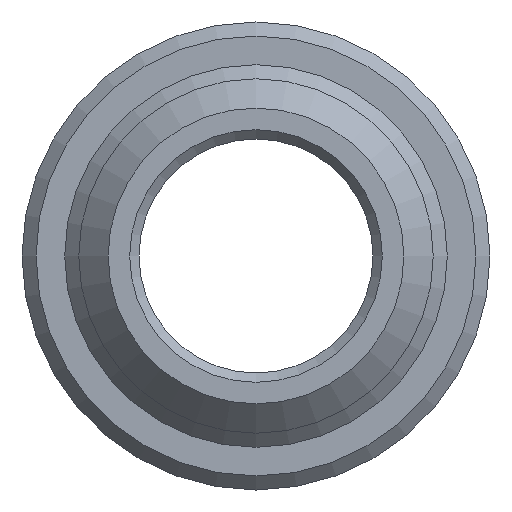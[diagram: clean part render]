
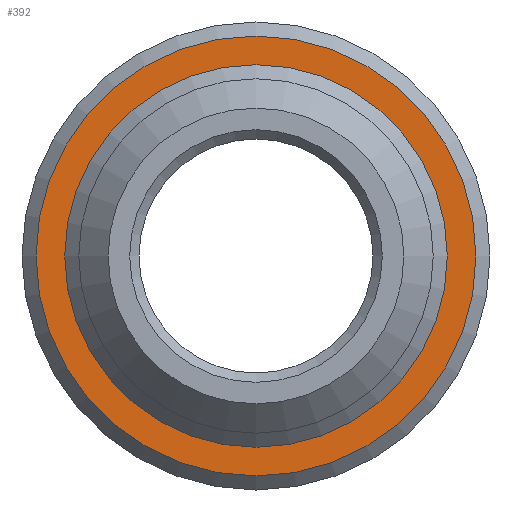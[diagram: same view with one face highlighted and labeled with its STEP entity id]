
A CAD part, front view. The second image highlights one B-rep face of the part: STEP entity #392.
In plain terms, the highlighted planar face has unit normal (0, -1, 0).
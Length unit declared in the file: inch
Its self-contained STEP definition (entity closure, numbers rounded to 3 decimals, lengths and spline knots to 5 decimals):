
#33=FACE_BOUND('',#86,.T.);
#44=PLANE('',#443);
#60=FACE_OUTER_BOUND('',#85,.T.);
#85=EDGE_LOOP('',(#316));
#86=EDGE_LOOP('',(#317));
#158=CIRCLE('',#442,0.20439);
#159=CIRCLE('',#444,0.235);
#195=VERTEX_POINT('',#678);
#196=VERTEX_POINT('',#682);
#243=EDGE_CURVE('',#195,#195,#158,.T.);
#244=EDGE_CURVE('',#196,#196,#159,.T.);
#316=ORIENTED_EDGE('',*,*,#244,.F.);
#317=ORIENTED_EDGE('',*,*,#243,.F.);
#392=ADVANCED_FACE('',(#60,#33),#44,.T.);
#442=AXIS2_PLACEMENT_3D('',#680,#536,#537);
#443=AXIS2_PLACEMENT_3D('',#681,#538,#539);
#444=AXIS2_PLACEMENT_3D('',#683,#540,#541);
#536=DIRECTION('center_axis',(0.,-1.,0.));
#537=DIRECTION('ref_axis',(0.,0.,-1.));
#538=DIRECTION('center_axis',(0.,-1.,0.));
#539=DIRECTION('ref_axis',(0.,0.,-1.));
#540=DIRECTION('center_axis',(0.,1.,0.));
#541=DIRECTION('ref_axis',(0.,0.,1.));
#678=CARTESIAN_POINT('',(0.,4.75,0.20439));
#680=CARTESIAN_POINT('Origin',(0.,4.75,0.));
#681=CARTESIAN_POINT('Origin',(0.,4.75,-0.203));
#682=CARTESIAN_POINT('',(0.,4.75,-0.235));
#683=CARTESIAN_POINT('Origin',(0.,4.75,0.));
